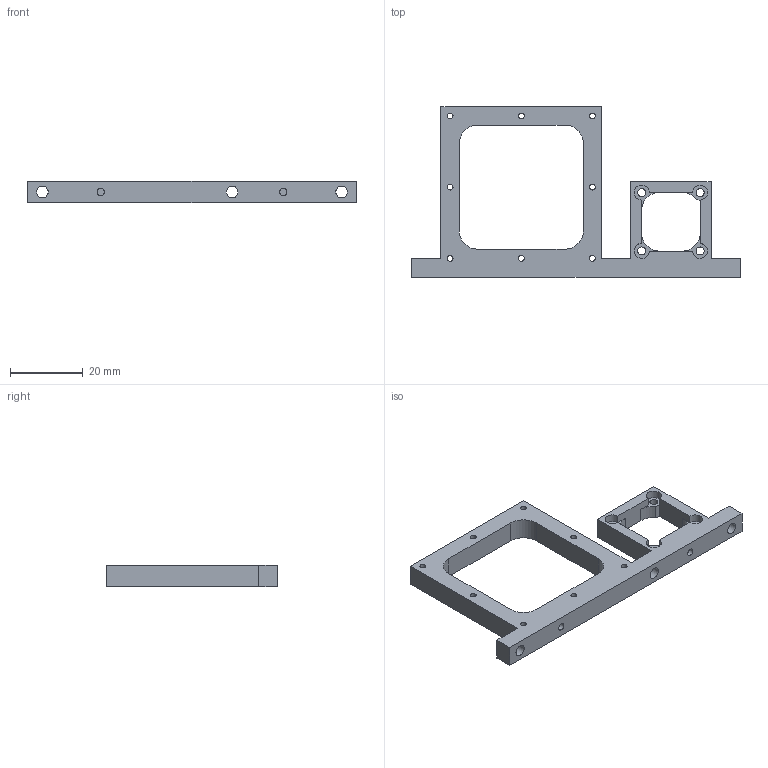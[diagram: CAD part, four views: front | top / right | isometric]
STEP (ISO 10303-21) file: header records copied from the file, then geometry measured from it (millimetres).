
FILE_DESCRIPTION(/* description */ ('','CAx-IF Rec.Pracs.---Representation and Presentation of Product Manufacturing Information (PMI)---4.0---2014-10-13'),/* implementation_level */ '2;1');
FILE_NAME(/* name */ 'a1_mini_toolhead_bottom_v5.step',/* time_stamp */ '2025-07-05T23:33:19+08:00',/* author */ (''),/* organization */ (''),/* preprocessor_version */ 'ST-DEVELOPER v20',/* originating_system */ 'Autodesk Translation Framework v13.20.0.188',/* authorisation */ '');
FILE_SCHEMA (('AP242_MANAGED_MODEL_BASED_3D_ENGINEERING_MIM_LF { 1 0 10303 442 1 1 4 }'));
Length unit declared in the file: millimetre
Products named in the file (1): a1_mini_toolhead_bottom
Bounding box: 90 x 46.67 x 6 mm (x, y, z)
Volume: 7804.5 mm3; surface area: 6280.8 mm2
Topology: 1 solids, 1 shells, 56 faces, 161 edges, 107 vertices
Faces by surface type: cylinder 30, plane 26
Full cylindrical faces by diameter (mm): 1.6 x8, 2 x2, 2.2 x4, 3.2 x3
Entity records: 1966 total; most frequent: DIRECTION 335, CARTESIAN_POINT 325, ORIENTED_EDGE 322, EDGE_CURVE 161, AXIS2_PLACEMENT_3D 117, VERTEX_POINT 107, LINE 101, VECTOR 101
